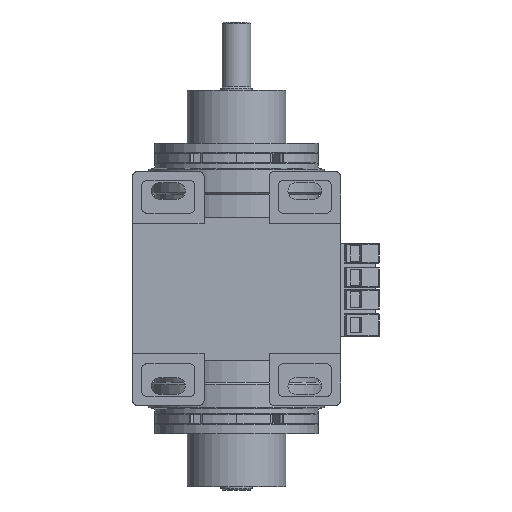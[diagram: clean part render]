
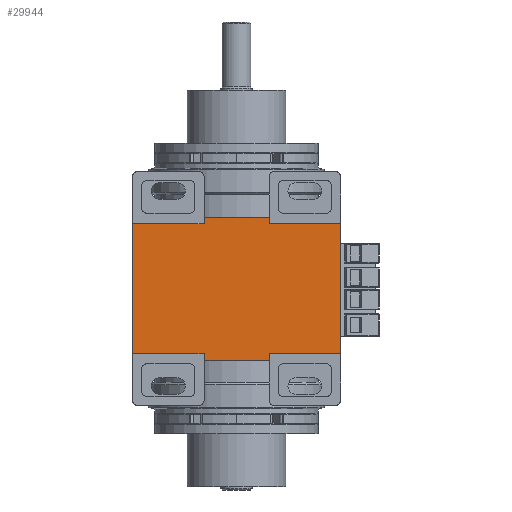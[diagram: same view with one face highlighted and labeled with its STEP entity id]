
A CAD part, front view. The second image highlights one B-rep face of the part: STEP entity #29944.
In plain terms, the highlighted planar face has unit normal (0, -1, 0).
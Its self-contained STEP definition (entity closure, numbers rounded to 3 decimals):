
#244 = CARTESIAN_POINT ( 'NONE',  ( 12.5, -53., -27.5 ) ) ;
#307 = ORIENTED_EDGE ( 'NONE', *, *, #10294, .T. ) ;
#712 = CARTESIAN_POINT ( 'NONE',  ( 40., -53., -27.5 ) ) ;
#782 = VERTEX_POINT ( 'NONE', #9035 ) ;
#790 = CARTESIAN_POINT ( 'NONE',  ( 12.5, -53., 27.5 ) ) ;
#979 = DIRECTION ( 'NONE',  ( -1., 0., 0. ) ) ;
#1390 = ORIENTED_EDGE ( 'NONE', *, *, #22606, .T. ) ;
#2014 = LINE ( 'NONE', #712, #3699 ) ;
#2128 = ORIENTED_EDGE ( 'NONE', *, *, #3084, .T. ) ;
#2720 = CARTESIAN_POINT ( 'NONE',  ( -12.5, -53., 27.5 ) ) ;
#2993 = VECTOR ( 'NONE', #23493, 1000. ) ;
#3084 = EDGE_CURVE ( 'NONE', #13823, #22566, #25090, .T. ) ;
#3300 = VECTOR ( 'NONE', #24952, 1000. ) ;
#3330 = DIRECTION ( 'NONE',  ( 1., 0., 0. ) ) ;
#3405 = DIRECTION ( 'NONE',  ( 0., 0., -1. ) ) ;
#3699 = VECTOR ( 'NONE', #3330, 1000. ) ;
#4407 = ORIENTED_EDGE ( 'NONE', *, *, #5811, .T. ) ;
#4572 = VERTEX_POINT ( 'NONE', #18250 ) ;
#4644 = CARTESIAN_POINT ( 'NONE',  ( 40., -53., 25. ) ) ;
#5342 = DIRECTION ( 'NONE',  ( 0., 0., 1. ) ) ;
#5424 = ORIENTED_EDGE ( 'NONE', *, *, #30294, .T. ) ;
#5569 = EDGE_LOOP ( 'NONE', ( #22501, #31457, #33117, #13061, #2128, #1390, #9474, #30115, #23339, #4407, #5424, #307 ) ) ;
#5811 = EDGE_CURVE ( 'NONE', #782, #4572, #25369, .T. ) ;
#6337 = CARTESIAN_POINT ( 'NONE',  ( 40., -53., 27.5 ) ) ;
#7201 = VERTEX_POINT ( 'NONE', #18961 ) ;
#7351 = LINE ( 'NONE', #24887, #22528 ) ;
#7355 = VERTEX_POINT ( 'NONE', #16710 ) ;
#7851 = VERTEX_POINT ( 'NONE', #32619 ) ;
#8160 = LINE ( 'NONE', #790, #13612 ) ;
#8658 = CARTESIAN_POINT ( 'NONE',  ( 40., -53., 27.5 ) ) ;
#8670 = VECTOR ( 'NONE', #5342, 1000. ) ;
#9035 = CARTESIAN_POINT ( 'NONE',  ( -40., -53., 25. ) ) ;
#9474 = ORIENTED_EDGE ( 'NONE', *, *, #20442, .F. ) ;
#9475 = FACE_OUTER_BOUND ( 'NONE', #5569, .T. ) ;
#9508 = DIRECTION ( 'NONE',  ( 1., 0., 0. ) ) ;
#9663 = CARTESIAN_POINT ( 'NONE',  ( -12.5, -53., -25. ) ) ;
#10098 = VERTEX_POINT ( 'NONE', #10339 ) ;
#10294 = EDGE_CURVE ( 'NONE', #19883, #7851, #32876, .T. ) ;
#10339 = CARTESIAN_POINT ( 'NONE',  ( -12.5, -53., 27.5 ) ) ;
#10698 = VERTEX_POINT ( 'NONE', #18552 ) ;
#11357 = DIRECTION ( 'NONE',  ( 1., 0., 0. ) ) ;
#11578 = VECTOR ( 'NONE', #11357, 1000. ) ;
#11582 = CARTESIAN_POINT ( 'NONE',  ( 40., -53., -25. ) ) ;
#13061 = ORIENTED_EDGE ( 'NONE', *, *, #23892, .F. ) ;
#13268 = CARTESIAN_POINT ( 'NONE',  ( 40., -53., 25. ) ) ;
#13612 = VECTOR ( 'NONE', #22264, 1000. ) ;
#13823 = VERTEX_POINT ( 'NONE', #13268 ) ;
#13900 = CARTESIAN_POINT ( 'NONE',  ( 40., -53., 25. ) ) ;
#14509 = EDGE_CURVE ( 'NONE', #7851, #17979, #2014, .T. ) ;
#15003 = PLANE ( 'NONE',  #34313 ) ;
#15226 = VECTOR ( 'NONE', #3405, 1000. ) ;
#16710 = CARTESIAN_POINT ( 'NONE',  ( 12.5, -53., -25. ) ) ;
#17043 = CARTESIAN_POINT ( 'NONE',  ( -40., -53., 27.5 ) ) ;
#17140 = VERTEX_POINT ( 'NONE', #23231 ) ;
#17979 = VERTEX_POINT ( 'NONE', #244 ) ;
#18250 = CARTESIAN_POINT ( 'NONE',  ( -40., -53., -25. ) ) ;
#18552 = CARTESIAN_POINT ( 'NONE',  ( 12.5, -53., 27.5 ) ) ;
#18767 = LINE ( 'NONE', #11582, #11578 ) ;
#18961 = CARTESIAN_POINT ( 'NONE',  ( 40., -53., -25. ) ) ;
#19516 = CARTESIAN_POINT ( 'NONE',  ( -12.5, -53., 27.5 ) ) ;
#19883 = VERTEX_POINT ( 'NONE', #9663 ) ;
#20426 = VECTOR ( 'NONE', #27378, 1000. ) ;
#20442 = EDGE_CURVE ( 'NONE', #10098, #10698, #24796, .T. ) ;
#21087 = LINE ( 'NONE', #2720, #29100 ) ;
#21135 = CARTESIAN_POINT ( 'NONE',  ( 12.5, -53., 27.5 ) ) ;
#22059 = DIRECTION ( 'NONE',  ( -1., 0., 0. ) ) ;
#22154 = LINE ( 'NONE', #21135, #8670 ) ;
#22264 = DIRECTION ( 'NONE',  ( 0., 0., 1. ) ) ;
#22501 = ORIENTED_EDGE ( 'NONE', *, *, #14509, .T. ) ;
#22528 = VECTOR ( 'NONE', #33403, 1000. ) ;
#22566 = VERTEX_POINT ( 'NONE', #28689 ) ;
#22606 = EDGE_CURVE ( 'NONE', #22566, #10698, #22154, .T. ) ;
#22823 = LINE ( 'NONE', #4644, #2993 ) ;
#23231 = CARTESIAN_POINT ( 'NONE',  ( -12.5, -53., 25. ) ) ;
#23339 = ORIENTED_EDGE ( 'NONE', *, *, #25299, .T. ) ;
#23493 = DIRECTION ( 'NONE',  ( -1., 0., 0. ) ) ;
#23892 = EDGE_CURVE ( 'NONE', #13823, #7201, #34774, .T. ) ;
#24796 = LINE ( 'NONE', #6337, #26864 ) ;
#24887 = CARTESIAN_POINT ( 'NONE',  ( 40., -53., -25. ) ) ;
#24952 = DIRECTION ( 'NONE',  ( 0., 0., -1. ) ) ;
#25090 = LINE ( 'NONE', #13900, #30155 ) ;
#25299 = EDGE_CURVE ( 'NONE', #17140, #782, #22823, .T. ) ;
#25369 = LINE ( 'NONE', #17043, #15226 ) ;
#26864 = VECTOR ( 'NONE', #9508, 1000. ) ;
#27378 = DIRECTION ( 'NONE',  ( 0., 0., -1. ) ) ;
#28097 = DIRECTION ( 'NONE',  ( 0., 1., 0. ) ) ;
#28689 = CARTESIAN_POINT ( 'NONE',  ( 12.5, -53., 25. ) ) ;
#29100 = VECTOR ( 'NONE', #32555, 1000. ) ;
#29785 = EDGE_CURVE ( 'NONE', #7355, #7201, #18767, .T. ) ;
#29944 = ADVANCED_FACE ( 'NONE', ( #9475 ), #15003, .F. ) ;
#30115 = ORIENTED_EDGE ( 'NONE', *, *, #33590, .T. ) ;
#30155 = VECTOR ( 'NONE', #22059, 1000. ) ;
#30294 = EDGE_CURVE ( 'NONE', #4572, #19883, #7351, .T. ) ;
#30852 = EDGE_CURVE ( 'NONE', #17979, #7355, #8160, .T. ) ;
#31457 = ORIENTED_EDGE ( 'NONE', *, *, #30852, .T. ) ;
#32555 = DIRECTION ( 'NONE',  ( 0., 0., -1. ) ) ;
#32619 = CARTESIAN_POINT ( 'NONE',  ( -12.5, -53., -27.5 ) ) ;
#32876 = LINE ( 'NONE', #19516, #3300 ) ;
#33117 = ORIENTED_EDGE ( 'NONE', *, *, #29785, .T. ) ;
#33403 = DIRECTION ( 'NONE',  ( 1., 0., 0. ) ) ;
#33590 = EDGE_CURVE ( 'NONE', #10098, #17140, #21087, .T. ) ;
#33914 = CARTESIAN_POINT ( 'NONE',  ( 40., -53., 27.5 ) ) ;
#34313 = AXIS2_PLACEMENT_3D ( 'NONE', #33914, #28097, #979 ) ;
#34774 = LINE ( 'NONE', #8658, #20426 ) ;
